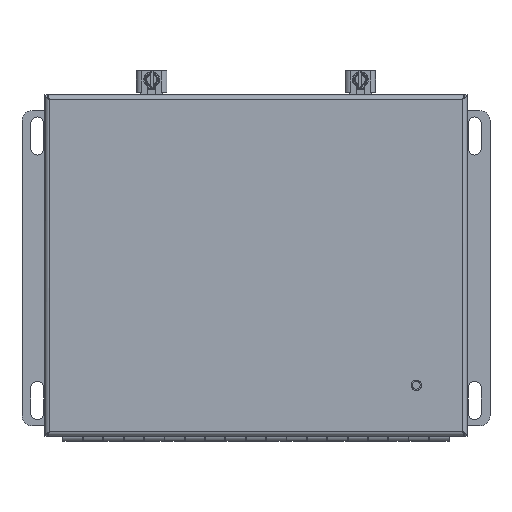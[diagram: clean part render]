
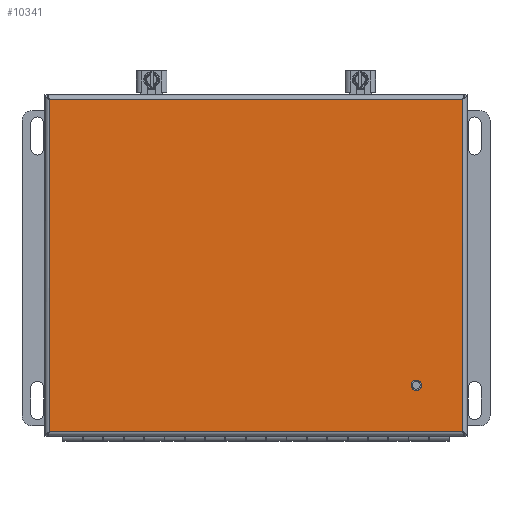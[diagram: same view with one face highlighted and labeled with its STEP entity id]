
A CAD part, top view. The second image highlights one B-rep face of the part: STEP entity #10341.
In plain terms, the highlighted planar face has unit normal (0, 0, 1) as drawn and (0, 0, -1) by its records, which use the part's own axes.
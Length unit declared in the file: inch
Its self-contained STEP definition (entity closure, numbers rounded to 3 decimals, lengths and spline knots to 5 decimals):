
#8806=DIRECTION('',(0.,-1.,0.));
#8807=VECTOR('',#8806,8.161);
#8808=CARTESIAN_POINT('',(10.263,-0.00827,0.));
#8809=LINE('',#8808,#8807);
#8841=CARTESIAN_POINT('',(1.25,-7.03127,0.));
#8842=DIRECTION('',(0.,0.,-1.));
#8843=DIRECTION('',(0.,-1.,0.));
#8844=AXIS2_PLACEMENT_3D('',#8841,#8842,#8843);
#8849=CARTESIAN_POINT('',(1.25,-7.03127,0.));
#8850=DIRECTION('',(0.,0.,-1.));
#8851=DIRECTION('',(0.,1.,0.));
#8852=AXIS2_PLACEMENT_3D('',#8849,#8850,#8851);
#9112=DIRECTION('',(1.,0.,0.));
#9113=VECTOR('',#9112,10.151);
#9114=CARTESIAN_POINT('',(0.112,-8.16927,0.));
#9115=LINE('',#9114,#9113);
#9168=DIRECTION('',(0.,-1.,0.));
#9169=VECTOR('',#9168,8.161);
#9170=CARTESIAN_POINT('',(0.112,-0.00827,0.));
#9171=LINE('',#9170,#9169);
#9372=DIRECTION('',(1.,0.,0.));
#9373=VECTOR('',#9372,10.151);
#9374=CARTESIAN_POINT('',(0.112,-0.00827,0.));
#9375=LINE('',#9374,#9373);
#9670=CARTESIAN_POINT('',(0.112,-0.00827,0.));
#9671=CARTESIAN_POINT('',(10.263,-0.00827,0.));
#9672=VERTEX_POINT('',#9670);
#9673=VERTEX_POINT('',#9671);
#9686=CARTESIAN_POINT('',(0.112,-8.16927,0.));
#9687=CARTESIAN_POINT('',(10.263,-8.16927,0.));
#9688=VERTEX_POINT('',#9686);
#9689=VERTEX_POINT('',#9687);
#9698=CARTESIAN_POINT('',(1.25,-7.12932,0.));
#9699=CARTESIAN_POINT('',(1.25,-6.93322,0.));
#9700=VERTEX_POINT('',#9698);
#9701=VERTEX_POINT('',#9699);
#10321=CARTESIAN_POINT('',(0.,0.10373,0.));
#10322=DIRECTION('',(0.,0.,-1.));
#10323=DIRECTION('',(1.,0.,0.));
#10324=AXIS2_PLACEMENT_3D('',#10321,#10322,#10323);
#10325=PLANE('',#10324);
#10326=ORIENTED_EDGE('',*,*,#10311,.F.);
#10328=ORIENTED_EDGE('',*,*,#10327,.F.);
#10330=ORIENTED_EDGE('',*,*,#10329,.T.);
#10332=ORIENTED_EDGE('',*,*,#10331,.T.);
#10333=EDGE_LOOP('',(#10326,#10328,#10330,#10332));
#10334=FACE_OUTER_BOUND('',#10333,.F.);
#10336=ORIENTED_EDGE('',*,*,#10335,.T.);
#10338=ORIENTED_EDGE('',*,*,#10337,.T.);
#10339=EDGE_LOOP('',(#10336,#10338));
#10340=FACE_BOUND('',#10339,.F.);
#8845=CIRCLE('',#8844,0.09805);
#8853=CIRCLE('',#8852,0.09805);
#10311=EDGE_CURVE('',#9673,#9689,#8809,.T.);
#10327=EDGE_CURVE('',#9672,#9673,#9375,.T.);
#10329=EDGE_CURVE('',#9672,#9688,#9171,.T.);
#10331=EDGE_CURVE('',#9688,#9689,#9115,.T.);
#10335=EDGE_CURVE('',#9700,#9701,#8845,.T.);
#10337=EDGE_CURVE('',#9701,#9700,#8853,.T.);
#10341=ADVANCED_FACE('',(#10334,#10340),#10325,.T.);
